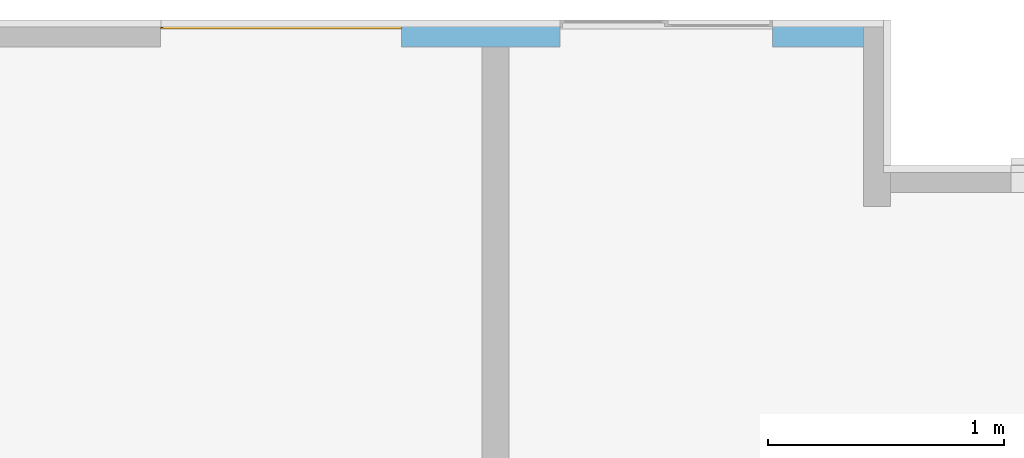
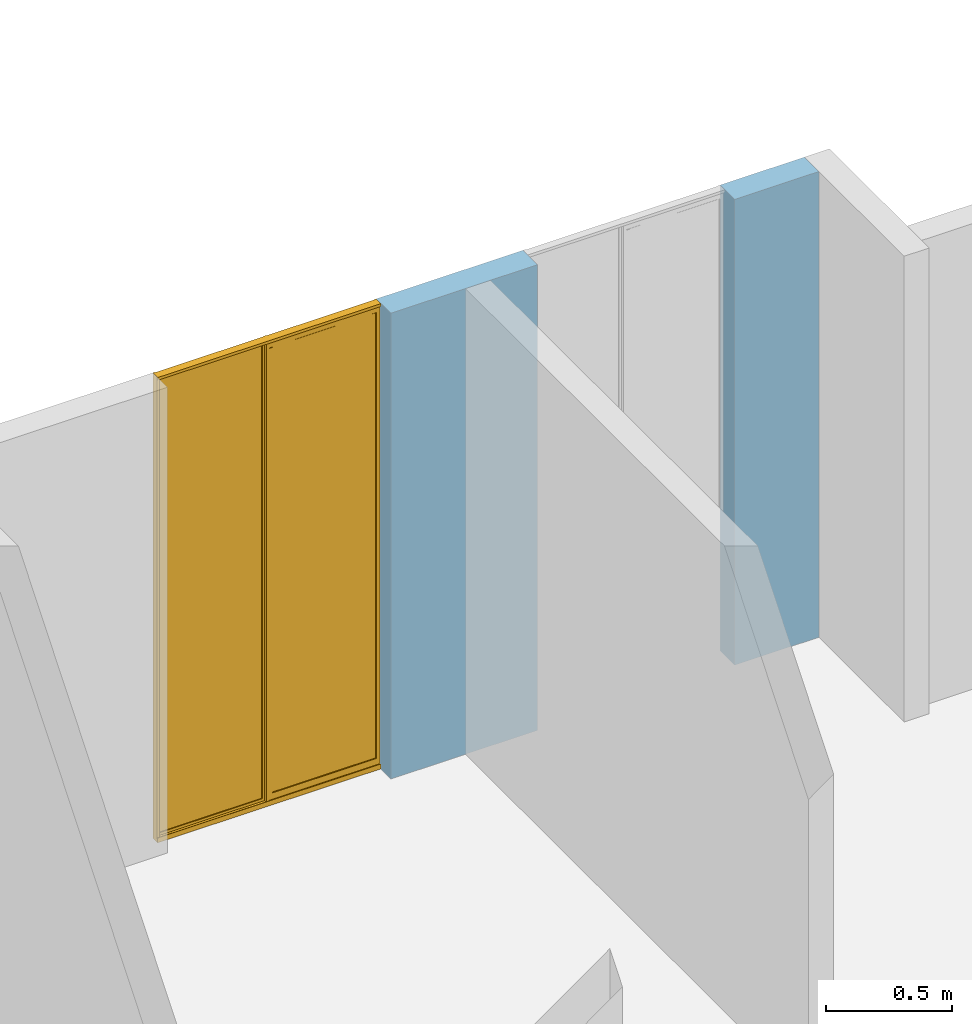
# One storey, part 18 of 47: 1 window, 2 openings, plus 1 element that does not belong to this part.
"""IFC4 building model written with IfcOpenShell, lengths in metres."""

from ifc_helpers import new_model, entity, si_unit, converted_unit, derived_unit, direction, frame, origin, place, context, subcontext, project, spatial, indexed_curve, outline, extrude, polygons, source, transform, mapped, material, constituent, constituent_set, type_object, type_shapes, element, fill, save


model = new_model("IFC4")

# Units and contexts
model_context = context("Model", 3, precision=1e-05, world=origin(), true_north=direction((6.123031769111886e-17, 1.0)))
body_context = subcontext(model_context, "Body", "Model", "MODEL_VIEW")
ifc_project = project(units=[si_unit("LENGTHUNIT", "METRE"), si_unit("AREAUNIT", "SQUARE_METRE"), si_unit("VOLUMEUNIT", "CUBIC_METRE"), converted_unit("PLANEANGLEUNIT", "DEGREE", entity("IfcRatioMeasure", 0.017453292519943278), si_unit("PLANEANGLEUNIT", "RADIAN"), dimensions=[0, 0, 0, 0, 0, 0, 0]), si_unit("MASSUNIT", "GRAM", prefix="KILO"), derived_unit("MASSDENSITYUNIT", [(si_unit("MASSUNIT", "GRAM", prefix="KILO"), 1), (si_unit("LENGTHUNIT", "METRE"), -3)]), derived_unit("IONCONCENTRATIONUNIT", [(si_unit("MASSUNIT", "GRAM", prefix="KILO"), 1), (si_unit("LENGTHUNIT", "METRE"), -3)]), derived_unit("MOMENTOFINERTIAUNIT", [(si_unit("LENGTHUNIT", "METRE"), 4)]), si_unit("TIMEUNIT", "SECOND"), si_unit("FREQUENCYUNIT", "HERTZ"), si_unit("THERMODYNAMICTEMPERATUREUNIT", "DEGREE_CELSIUS"), derived_unit("THERMALTRANSMITTANCEUNIT", [(si_unit("MASSUNIT", "GRAM", prefix="KILO"), 1), (si_unit("THERMODYNAMICTEMPERATUREUNIT", "KELVIN"), -1), (si_unit("TIMEUNIT", "SECOND"), -3)]), derived_unit("THERMALCONDUCTANCEUNIT", [(si_unit("MASSUNIT", "GRAM", prefix="KILO"), 1), (si_unit("THERMODYNAMICTEMPERATUREUNIT", "KELVIN"), -1), (si_unit("TIMEUNIT", "SECOND"), -3), (si_unit("LENGTHUNIT", "METRE"), 1)]), derived_unit("VOLUMETRICFLOWRATEUNIT", [(si_unit("LENGTHUNIT", "METRE"), 3), (si_unit("TIMEUNIT", "SECOND"), -1)]), derived_unit("MASSFLOWRATEUNIT", [(si_unit("MASSUNIT", "GRAM", prefix="KILO"), 1), (si_unit("TIMEUNIT", "SECOND"), -1)]), derived_unit("ROTATIONALFREQUENCYUNIT", [(si_unit("TIMEUNIT", "SECOND"), -1)]), si_unit("ELECTRICCURRENTUNIT", "AMPERE"), si_unit("ELECTRICVOLTAGEUNIT", "VOLT"), si_unit("POWERUNIT", "WATT"), si_unit("FORCEUNIT", "NEWTON", prefix="KILO"), si_unit("ILLUMINANCEUNIT", "LUX"), si_unit("LUMINOUSFLUXUNIT", "LUMEN"), si_unit("LUMINOUSINTENSITYUNIT", "CANDELA"), derived_unit("USERDEFINED", [(si_unit("MASSUNIT", "GRAM", prefix="KILO"), -1), (si_unit("LENGTHUNIT", "METRE"), -2), (si_unit("TIMEUNIT", "SECOND"), 3), (si_unit("LUMINOUSFLUXUNIT", "LUMEN"), 1)]), derived_unit("USERDEFINED", [(si_unit("MASSUNIT", "GRAM", prefix="KILO"), 1), (si_unit("TIMEUNIT", "SECOND"), -3), (si_unit("LENGTHUNIT", "METRE"), 3), (si_unit("ELECTRICCURRENTUNIT", "AMPERE"), -2)]), derived_unit("SOUNDPOWERUNIT", [(si_unit("MASSUNIT", "GRAM", prefix="KILO"), 1), (si_unit("TIMEUNIT", "SECOND"), -3), (si_unit("LENGTHUNIT", "METRE"), 2)]), derived_unit("SOUNDPRESSUREUNIT", [(si_unit("MASSUNIT", "GRAM", prefix="KILO"), 1), (si_unit("LENGTHUNIT", "METRE"), -1), (si_unit("TIMEUNIT", "SECOND"), -2)]), derived_unit("LINEARVELOCITYUNIT", [(si_unit("LENGTHUNIT", "METRE"), 1), (si_unit("TIMEUNIT", "SECOND"), -1)]), si_unit("PRESSUREUNIT", "PASCAL"), derived_unit("USERDEFINED", [(si_unit("MASSUNIT", "GRAM", prefix="KILO"), 1), (si_unit("LENGTHUNIT", "METRE"), -2), (si_unit("TIMEUNIT", "SECOND"), -2)]), derived_unit("LINEARFORCEUNIT", [(si_unit("MASSUNIT", "GRAM", prefix="KILO"), 1), (si_unit("TIMEUNIT", "SECOND"), -2)]), derived_unit("PLANARFORCEUNIT", [(si_unit("MASSUNIT", "GRAM", prefix="KILO"), 1), (si_unit("LENGTHUNIT", "METRE"), -1), (si_unit("TIMEUNIT", "SECOND"), -2)]), derived_unit("SPECIFICHEATCAPACITYUNIT", [(si_unit("THERMODYNAMICTEMPERATUREUNIT", "KELVIN"), -1), (si_unit("LENGTHUNIT", "METRE"), 2), (si_unit("TIMEUNIT", "SECOND"), -2)]), derived_unit("HEATINGVALUEUNIT", [(si_unit("LENGTHUNIT", "METRE"), 2), (si_unit("TIMEUNIT", "SECOND"), -2)]), derived_unit("VAPORPERMEABILITYUNIT", [(si_unit("LENGTHUNIT", "METRE"), -1), (si_unit("TIMEUNIT", "SECOND"), 1)]), derived_unit("DYNAMICVISCOSITYUNIT", [(si_unit("MASSUNIT", "GRAM", prefix="KILO"), 1), (si_unit("TIMEUNIT", "SECOND"), -1), (si_unit("LENGTHUNIT", "METRE"), -1)]), derived_unit("THERMALEXPANSIONCOEFFICIENTUNIT", [(si_unit("THERMODYNAMICTEMPERATUREUNIT", "KELVIN"), -1)]), derived_unit("MODULUSOFELASTICITYUNIT", [(si_unit("MASSUNIT", "GRAM", prefix="KILO"), 1), (si_unit("LENGTHUNIT", "METRE"), -1), (si_unit("TIMEUNIT", "SECOND"), -2)]), derived_unit("ISOTHERMALMOISTURECAPACITYUNIT", [(si_unit("LENGTHUNIT", "METRE"), 3), (si_unit("MASSUNIT", "GRAM", prefix="KILO"), -1)]), derived_unit("MOISTUREDIFFUSIVITYUNIT", [(si_unit("TIMEUNIT", "SECOND"), -1), (si_unit("LENGTHUNIT", "METRE"), 2)])], contexts=[model_context])

# Site, building, storey
site_placement = place(None, origin())
site = spatial("IfcSite", under=ifc_project, at=site_placement, Name="Default", CompositionType="ELEMENT")
building_placement = place(site_placement, origin())
building = spatial("IfcBuilding", under=site, at=building_placement, CompositionType="ELEMENT")
storey_placement = place(building_placement, frame((0.0, 0.0, 11.750000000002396)))
storey = spatial("IfcBuildingStorey", under=building, at=storey_placement, Name="Nivel 6", CompositionType="ELEMENT", Elevation=11.750000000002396)

# Wall, openings, window
ifc_material_1 = material(Name="Ladrillo claro (Aire)", Category="Materials")
wall_type = type_object("IfcWallType", Name="Basic Wall:B2010 - 0.115m - Muro exterior en mampostería - Ladrillo", PredefinedType="STANDARD")
wall_placement = place(storey_placement, frame((6.067499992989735, -0.037500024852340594, 0.0), z_axis=(0.0, 0.0, 1.0), x_axis=(-1.0, 0.0, 0.0)))
wall = element("IfcWall", 1, at=wall_placement, inside=storey, type_object=wall_type, material=ifc_material_1, Name="Basic Wall:B2010 - 0.115m - Muro exterior en mampostería - Ladrillo", ObjectType="Basic Wall:B2010 - 0.115m - Muro exterior en mampostería - Ladrillo", PredefinedType="NOTDEFINED", context=body_context, shape_type="Tessellation", body=[
    polygons([(1.7657632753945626e-17, -0.05750000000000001, 2.250000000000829), (1.1005247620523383e-15, -0.05750000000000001, -2.1657342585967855e-15), (0.3850000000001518, -0.05750000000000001, -2.1657342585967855e-15), (0.3850000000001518, -0.05750000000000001, 2.250000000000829), (2.0818603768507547e-15, 0.05749999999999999, -2.1657342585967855e-15), (0.3850000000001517, 0.05749999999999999, -2.1657342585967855e-15), (0.3850000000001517, 0.05749999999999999, 2.250000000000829), (9.989932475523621e-16, 0.05749999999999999, 2.250000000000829)], [[[1, 2, 3, 4]], [[2, 5, 6, 3]], [[4, 3, 6, 7]], [[2, 1, 8, 5]], [[8, 1, 4, 7]], [[5, 8, 7, 6]]], closed=True),
    polygons([(1.955799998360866, 0.05749999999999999, 2.250000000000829), (1.955799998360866, 0.05749999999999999, -2.1657342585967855e-15), (1.6149999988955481, 0.05749999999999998, -2.1657342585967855e-15), (1.4999999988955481, 0.05749999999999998, -2.1657342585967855e-15), (1.2850000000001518, 0.05749999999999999, -2.1657342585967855e-15), (1.2850000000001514, 0.05749999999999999, 2.250000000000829), (1.4999999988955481, 0.05749999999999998, 2.2500000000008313), (1.6149999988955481, 0.05749999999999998, 2.2500000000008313), (1.955799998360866, -0.05750000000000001, 2.250000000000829), (1.2850000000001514, -0.05750000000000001, 2.250000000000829), (1.955799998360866, -0.05750000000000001, -2.1657342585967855e-15), (1.2850000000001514, -0.05750000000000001, -2.1657342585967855e-15)], [[[1, 2, 3, 4, 5, 6, 7, 8]], [[9, 1, 8, 7, 6, 10]], [[9, 11, 2, 1]], [[12, 10, 6, 5]], [[2, 11, 12, 5, 4, 3]], [[11, 9, 10, 12]]], closed=True),
])
opening_1_placement = place(wall_placement, frame((1.9557999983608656, -0.057500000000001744, 0.0)))
opening_1 = element("IfcOpeningElement", 2, at=opening_1_placement, cuts=wall, Name="B2020 - Ventana corrediza 2C - Aluminio + Vidrio:B2020 - 1.02m x 2.25m - Ventana corrediza 2C - Aluminio + Vidrio:1", PredefinedType="OPENING", context=body_context, shape_type="SweptSolid", body=[
    extrude(outline(indexed_curve([(0.0, 1.0199999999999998), (0.0, 0.0), (2.2499999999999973, 0.0), (2.249999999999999, 1.0199999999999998), (0.0, 1.0199999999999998)], self_intersect=False)), frame((0.0, 0.0, 0.0), z_axis=(0.0, 1.0, 0.0), x_axis=(0.0, 0.0, 1.0)), (0.0, 0.0, 1.0), 0.115),
])
opening_2_placement = place(wall_placement, frame((0.3850000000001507, -0.05750000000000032, 0.0)))
element("IfcOpeningElement", 3, at=opening_2_placement, cuts=wall, Name="B2020 - Ventana corrediza 2C - Aluminio + Vidrio:B2020 - 0.90m x 2.25m - Ventana corrediza 2C - Aluminio + Vidrio:1", PredefinedType="OPENING", context=body_context, shape_type="SweptSolid", body=[
    extrude(outline(indexed_curve([(0.0, 0.9), (0.0, 0.0), (2.2499999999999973, 0.0), (2.249999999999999, 0.9), (0.0, 0.9)], self_intersect=False)), frame((0.0, 0.0, 0.0), z_axis=(0.0, 1.0, 0.0), x_axis=(0.0, 0.0, 1.0)), (0.0, 0.0, 1.0), 0.115),
])
ifc_material_2 = material(Name="Vidrio", Category="Materials")
ifc_constituent_1 = constituent(ifc_material_2, Name="Vidrio", Category="Materials")
ifc_material_3 = material(Name="<Unnamed>")
ifc_constituent_2 = constituent(ifc_material_3, Name="<Unnamed>")
ifc_constituent_set_1 = constituent_set(constituents=[ifc_constituent_1, ifc_constituent_2])
ifc_constituent_3 = constituent(ifc_material_2, Name="Vidrio", Category="Materials")
ifc_constituent_4 = constituent(ifc_material_3, Name="<Unnamed>")
ifc_constituent_set_2 = constituent_set(constituents=[ifc_constituent_3, ifc_constituent_4])
window_type = type_object("IfcWindowType", Name="B2020 - Ventana corrediza 2C - Aluminio + Vidrio:B2020 - 1.02m x 2.25m - Ventana corrediza 2C - Aluminio + Vidrio", PartitioningType="NOTDEFINED", PredefinedType="WINDOW", material=ifc_constituent_set_2)
shared_shape = source(origin(), body_context, "Body", "Tessellation", [
    polygons([(0.48981286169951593, 0.11062877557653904, 0.028641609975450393), (0.48981286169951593, 0.10552744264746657, 0.028641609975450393), (0.01996764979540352, 0.10552744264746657, 0.028641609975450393), (0.019967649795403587, 0.11062877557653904, 0.028641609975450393), (0.48981286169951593, 0.11062877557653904, 2.2347073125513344), (0.48981286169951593, 0.10552744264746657, 2.2347073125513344), (0.01996764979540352, 0.10552744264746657, 2.2347073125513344), (0.019967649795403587, 0.11062877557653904, 2.2347073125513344)], [[[1, 2, 3, 4]], [[5, 6, 2, 1]], [[6, 7, 3, 2]], [[7, 8, 4, 3]], [[8, 5, 1, 4]], [[5, 8, 7, 6]]], closed=True),
    polygons([(1.0011536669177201, 0.0938089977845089, 0.054189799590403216), (1.0011536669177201, 0.08951300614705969, 0.054189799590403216), (0.5317289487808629, 0.08951300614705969, 0.054189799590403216), (0.5317289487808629, 0.0938089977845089, 0.054189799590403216), (1.0011536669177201, 0.0938089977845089, 2.2043993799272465), (1.0011536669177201, 0.08951300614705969, 2.2043993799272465), (0.5317289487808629, 0.08951300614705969, 2.2043993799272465), (0.5317289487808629, 0.0938089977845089, 2.2043993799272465)], [[[1, 2, 3, 4]], [[5, 6, 2, 1]], [[6, 7, 3, 2]], [[7, 8, 4, 3]], [[8, 5, 1, 4]], [[5, 8, 7, 6]]], closed=True),
    polygons([(1.0200000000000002, 0.07999999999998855, 0.020380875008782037), (1.0200000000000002, 0.07999999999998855, -2.5718094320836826e-15), (1.0200000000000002, 0.1149999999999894, -2.5718094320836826e-15), (1.0200000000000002, 0.1150000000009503, 2.2499999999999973), (1.0200000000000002, 0.07720993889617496, 2.2499999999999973), (1.0200000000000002, 0.07720993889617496, 2.2365872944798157), (1.0200000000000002, 0.07857307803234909, 2.2365872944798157), (1.0200000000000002, 0.07857307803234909, 2.24863686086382), (1.0200000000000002, 0.08683610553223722, 2.24863686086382), (1.0200000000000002, 0.0868361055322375, 0.017447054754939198), (1.0200000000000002, 0.08124999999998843, 0.017447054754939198), (1.0200000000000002, 0.08124999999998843, 0.02163087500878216), (1.0200000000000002, 0.07857761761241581, 0.02163087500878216), (1.0200000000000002, 0.07857761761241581, 0.025674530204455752), (1.0200000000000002, 0.07732761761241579, 0.025674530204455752), (1.0200000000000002, 0.07732761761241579, 0.020380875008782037), (2.0303758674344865e-16, 0.0799999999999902, 0.020380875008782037), (2.0303758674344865e-16, 0.0799999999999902, -2.5718094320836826e-15), (2.0303758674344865e-16, 0.11499999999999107, -2.5718094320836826e-15), (0.5033545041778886, 0.1149999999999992, 2.2499999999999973), (0.5166454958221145, 0.1149999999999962, 2.2499999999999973), (0.5166454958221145, 0.11499999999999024, 0.006176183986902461), (1.010102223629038, 0.11499999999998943, 0.006176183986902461), (1.010102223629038, 0.1150000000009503, 2.2499999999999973), (2.707167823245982e-16, 0.1150000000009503, 2.2499999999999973), (0.009999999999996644, 0.11500000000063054, 2.2499999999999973), (0.009999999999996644, 0.11499999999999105, 0.006176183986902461), (0.5033545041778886, 0.11499999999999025, 0.006176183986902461), (1.003701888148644, 0.08683610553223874, 2.2069861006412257), (1.0037018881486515, 0.0868361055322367, 0.0519155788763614), (0.5291807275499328, 0.08683610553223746, 0.0519155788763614), (0.5291807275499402, 0.08683610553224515, 2.2043993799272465), (0.5166454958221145, 0.08683610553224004, 2.2043993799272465), (0.5166454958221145, 0.08683610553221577, 2.2069861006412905), (1.0037018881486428, 0.08683610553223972, 2.237270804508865), (0.5166454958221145, 0.0868361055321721, 2.237270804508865), (0.5166454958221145, 0.08683610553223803, 2.24863686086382), (0.5019528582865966, 0.08683610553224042, 2.24863686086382), (0.5019528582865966, 0.08683610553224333, 0.01744705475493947), (0.5166454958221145, 0.08683610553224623, 0.017447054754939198), (0.5166454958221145, 0.08683610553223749, 0.021630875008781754), (1.0162371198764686, 0.08683610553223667, 0.02163087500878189), (1.0162371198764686, 0.08683610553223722, 0.01744705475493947), (1.0037018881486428, 0.08683610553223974, 2.24863686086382), (2.0303758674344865e-16, 0.0812499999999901, 0.017447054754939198), (1.0162371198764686, 0.09036136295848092, 0.017447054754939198), (0.5166454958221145, 0.09036136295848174, 0.017447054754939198), (0.5019528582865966, 0.09036136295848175, 0.017447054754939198), (0.009999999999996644, 0.09036136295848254, 0.017447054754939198), (0.009999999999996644, 0.08300000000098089, 0.017447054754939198), (2.0303758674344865e-16, 0.08300000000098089, 0.017447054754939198), (2.0303758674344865e-16, 0.0812499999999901, 0.02163087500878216), (2.0303758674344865e-16, 0.07857761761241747, 0.02163087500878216), (2.0303758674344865e-16, 0.07857761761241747, 0.025674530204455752), (2.0303758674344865e-16, 0.07732761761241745, 0.025674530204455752), (2.0303758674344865e-16, 0.07732761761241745, 0.020380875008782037), (1.0011570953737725, 0.09380711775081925, 0.054191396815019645), (1.0037018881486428, 0.09648589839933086, 0.051915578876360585), (0.529180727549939, 0.09648589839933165, 0.051915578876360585), (0.5317227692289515, 0.09380452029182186, 0.054191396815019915), (1.0037018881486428, 0.09648589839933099, 2.237270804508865), (1.0011536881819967, 0.09378706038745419, 2.237270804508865), (1.0011536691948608, 0.09378696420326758, 2.24863686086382), (1.0037018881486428, 0.09648589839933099, 2.24863686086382), (1.0037018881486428, 0.09648589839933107, 2.206986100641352), (0.5166454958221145, 0.09648589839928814, 2.2069861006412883), (0.5166454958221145, 0.09648589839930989, 2.237270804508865), (1.010102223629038, 0.09648589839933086, 2.24863686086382), (1.010102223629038, 0.09648589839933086, 0.021630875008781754), (0.5166454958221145, 0.09648589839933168, 0.02163087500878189), (0.5166454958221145, 0.09648589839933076, 2.2043993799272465), (0.5291807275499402, 0.09648589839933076, 2.2043993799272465), (0.5317289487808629, 0.09379979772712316, 2.2043993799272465), (1.0011598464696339, 0.08951748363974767, 0.05419139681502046), (0.5317255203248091, 0.08951488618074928, 0.05419139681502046), (1.0011537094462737, 0.08953496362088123, 2.237270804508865), (1.0011536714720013, 0.08953504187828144, 2.24863686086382), (0.5317289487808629, 0.08952211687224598, 2.2043992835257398), (0.5019528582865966, 0.10334183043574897, 2.24863686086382), (0.5019528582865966, 0.10334183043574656, 0.014402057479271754), (0.5019528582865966, 0.09363692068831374, 0.014402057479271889), (0.5019528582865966, 0.0936369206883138, 0.010600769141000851), (0.5019528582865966, 0.09036136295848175, 0.011279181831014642), (0.5166454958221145, 0.11281438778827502, 2.2499999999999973), (0.5166454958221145, 0.11281438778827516, 2.2369062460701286), (0.5166454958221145, 0.11061545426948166, 2.2347073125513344), (0.5166454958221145, 0.10554076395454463, 2.2347073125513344), (0.5166454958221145, 0.10334183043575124, 2.2369062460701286), (0.5166454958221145, 0.10334183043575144, 2.24863686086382), (0.5166454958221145, 0.09380890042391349, 2.204399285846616), (0.5166454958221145, 0.09036136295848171, 0.011279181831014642), (1.0162371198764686, 0.09648589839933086, 0.021630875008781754), (1.0162371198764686, 0.09648589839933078, 0.010010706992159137), (1.0162371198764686, 0.0903613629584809, 0.011279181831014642), (1.010102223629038, 0.09648589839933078, 0.010010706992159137), (1.010102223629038, 0.10334183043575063, 2.24863686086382), (1.010102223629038, 0.10334183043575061, 2.2369062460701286), (1.010102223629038, 0.1055407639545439, 2.2347073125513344), (1.010102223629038, 0.11061545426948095, 2.2347073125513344), (1.010102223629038, 0.11281438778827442, 2.2369062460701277), (1.010102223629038, 0.11281438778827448, 2.2499999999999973), (2.0303758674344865e-16, 0.08300000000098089, 2.24863686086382), (2.0303758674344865e-16, 0.07857307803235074, 2.24863686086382), (2.0303758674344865e-16, 0.07857307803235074, 2.2365872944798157), (2.0303758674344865e-16, 0.07720993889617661, 2.2365872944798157), (2.0303758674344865e-16, 0.07720993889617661, 2.2499999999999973), (0.009999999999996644, 0.08300000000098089, 2.24863686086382), (0.009999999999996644, 0.09036136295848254, 0.011279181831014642), (0.009999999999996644, 0.09363692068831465, 0.010600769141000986), (0.009999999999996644, 0.09363692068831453, 0.014402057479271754), (0.009999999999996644, 0.10334183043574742, 0.014402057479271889), (0.009999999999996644, 0.10334183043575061, 2.24863686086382), (0.5033545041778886, 0.11281438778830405, 0.006628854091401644), (0.5033545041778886, 0.112814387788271, 2.2499999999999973), (0.009999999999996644, 0.11281438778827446, 2.2499999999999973), (0.009999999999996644, 0.11281438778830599, 0.0066288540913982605), (0.4923610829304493, 0.11281438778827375, 0.02682441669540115), (0.48981286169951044, 0.11062877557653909, 0.028641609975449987), (0.4898128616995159, 0.1106287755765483, 2.2347139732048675), (0.4923610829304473, 0.11281438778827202, 2.236906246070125), (0.019967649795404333, 0.11062877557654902, 0.028641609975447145), (0.017419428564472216, 0.11281438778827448, 0.02682441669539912), (0.017419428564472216, 0.1128143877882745, 2.236906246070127), (0.019967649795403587, 0.11062877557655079, 2.2347139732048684), (0.019967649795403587, 0.10552744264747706, 0.028641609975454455), (0.01741942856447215, 0.1033418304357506, 0.026824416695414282), (0.4923610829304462, 0.10334183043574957, 0.02682441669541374), (0.48981286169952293, 0.10552744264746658, 0.028641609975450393), (0.019968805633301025, 0.10553009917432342, 2.234711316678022), (0.01741942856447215, 0.10334183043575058, 2.23690624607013), (0.49236108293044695, 0.10334183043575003, 2.2369062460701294), (0.4898117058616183, 0.1055300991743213, 2.234711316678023), (1.0011537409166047, 0.09378737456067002, 2.2043889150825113), (1.0011555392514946, 0.0895303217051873, 2.2043931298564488), (0.5166454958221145, 0.08951315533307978, 2.2043993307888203)], [[[1, 2, 3, 4, 5, 6, 7, 8, 9, 10, 11, 12, 13, 14, 15, 16]], [[17, 18, 2, 1]], [[2, 18, 19, 3]], [[20, 21, 22, 23, 24, 4, 3, 19, 25, 26, 27, 28]], [[35, 36, 37, 38, 39, 40, 41, 42, 43, 10, 9, 44], [29, 30, 31, 32, 33, 34]], [[45, 11, 10, 43, 46, 47, 40, 39, 48, 49, 50, 51]], [[45, 52, 12, 11]], [[52, 53, 13, 12]], [[53, 54, 14, 13]], [[54, 55, 15, 14]], [[55, 56, 16, 15]], [[56, 17, 1, 16]], [[57, 58, 59, 60]], [[61, 62, 63, 64]], [[58, 65, 66, 67, 61, 64, 68, 69, 70, 71, 72, 59]], [[72, 73, 60, 59]], [[74, 57, 60, 75]], [[62, 76, 77, 63]], [[60, 73, 78, 75]], [[30, 74, 75, 31]], [[76, 35, 44, 77]], [[78, 32, 31, 75]], [[48, 39, 38, 79, 80, 81, 82, 83]], [[22, 21, 84, 85, 86, 87, 88, 89, 37, 36, 67, 66, 90, 71, 70, 41, 40, 47, 91]], [[41, 70, 69, 92, 42]], [[92, 93, 94, 46, 43, 42]], [[69, 95, 93, 92]], [[24, 23, 95, 69, 68, 96, 97, 98, 99, 100, 101]], [[17, 56, 55, 54, 53, 52, 45, 51, 102, 103, 104, 105, 106, 25, 19, 18]], [[51, 50, 107, 102]], [[48, 83, 108, 49]], [[50, 49, 108, 109, 110, 111, 112, 107]], [[83, 82, 109, 108]], [[113, 114, 20, 28]], [[26, 115, 116, 27]], [[84, 101, 100, 85]], [[82, 81, 110, 109]], [[117, 118, 119, 120]], [[121, 122, 123, 124]], [[122, 121, 118, 117]], [[125, 126, 127, 128]], [[88, 97, 96, 89]], [[126, 125, 129, 130]], [[128, 127, 131, 132]], [[81, 80, 111, 110]], [[125, 121, 124, 129]], [[121, 125, 128, 118]], [[118, 128, 132, 119]], [[5, 4, 24, 101, 84, 21, 20, 114, 115, 26, 25, 106]], [[65, 133, 73, 90, 66]], [[133, 134, 78, 73]], [[134, 29, 34, 135, 78]], [[76, 62, 61, 67, 36, 35]], [[33, 32, 78, 135]], [[104, 103, 8, 7]], [[105, 104, 7, 6]], [[106, 105, 6, 5]], [[123, 120, 119, 124]], [[132, 129, 124, 119]], [[131, 130, 129, 132]], [[8, 103, 102, 107, 112, 79, 38, 37, 89, 96, 68, 64, 63, 77, 44, 9]], [[87, 98, 97, 88]], [[86, 99, 98, 87]], [[85, 100, 99, 86]], [[73, 72, 71, 90]], [[111, 80, 79, 112], [127, 126, 130, 131]], [[115, 114, 113, 116], [117, 120, 123, 122]], [[113, 28, 27, 116]], [[22, 91, 94, 93, 95, 23]], [[91, 47, 46, 94]], [[135, 34, 33]], [[74, 30, 29, 134]], [[57, 74, 134, 133]], [[58, 57, 133, 65]]], closed=True),
])
type_shapes(window_type, [shared_shape])
window_placement = place(opening_1_placement, frame((1.0200000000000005, 0.11499999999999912, 0.0), z_axis=(0.0, 0.0, 1.0), x_axis=(-1.0, 0.0, 0.0)))
window = element("IfcWindow", 4, at=window_placement, inside=storey, type_object=window_type, material=ifc_constituent_set_1, Name="B2020 - Ventana corrediza 2C - Aluminio + Vidrio:B2020 - 1.02m x 2.25m - Ventana corrediza 2C - Aluminio + Vidrio", ObjectType="B2020 - Ventana corrediza 2C - Aluminio + Vidrio:B2020 - 1.02m x 2.25m - Ventana corrediza 2C - Aluminio + Vidrio", OverallHeight=2.2499999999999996, OverallWidth=1.0199999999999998, PartitioningType="NOTDEFINED", PredefinedType="WINDOW", context=body_context, shape_type="MappedRepresentation", body=[
    mapped(shared_shape, transform((0.0, 0.0, 0.0), scale=1.0)),
])
fill(opening_1, window)

save(model, "model.ifc")
